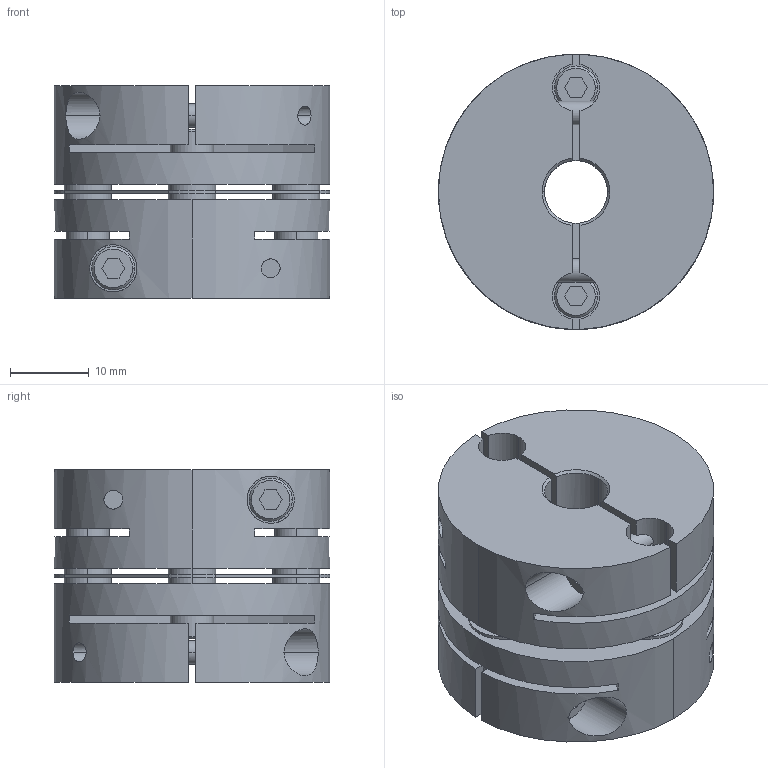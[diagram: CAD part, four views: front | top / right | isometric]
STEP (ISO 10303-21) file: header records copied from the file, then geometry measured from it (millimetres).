
FILE_DESCRIPTION((''),'2;1');
FILE_NAME('LAS-35C-8×8.stp','2011-08-10T16:34:23',(''),(''),'AutoCAD STEP 2000i','AutoCAD 2000i',', , ');
FILE_SCHEMA(('CONFIG_CONTROL_DESIGN'));
Length unit declared in the file: millimetre
Products named in the file (5): LAS-35C-8×8; 忣兜1; LA-3502-D08-1; LA-3502-D08; LAS35-ITA
Assembly tree (4 placements, depth 2):
  LAS-35C-8×8
    忣兜1
    LA-3502-D08-1
    LA-3502-D08
    LAS35-ITA
Bounding box: 35 x 35 x 27 mm (x, y, z)
Volume: 20457.9 mm3; surface area: 12191.3 mm2
Topology: 1 solids, 1 shells, 236 faces, 624 edges, 408 vertices
Faces by surface type: plane 112, cylinder 96, cone 28
Entity records: 8143 total; most frequent: CARTESIAN_POINT 1949, DIRECTION 1302, ORIENTED_EDGE 1248, EDGE_CURVE 624, AXIS2_PLACEMENT_3D 477, VERTEX_POINT 408, VECTOR 348, LINE 348
